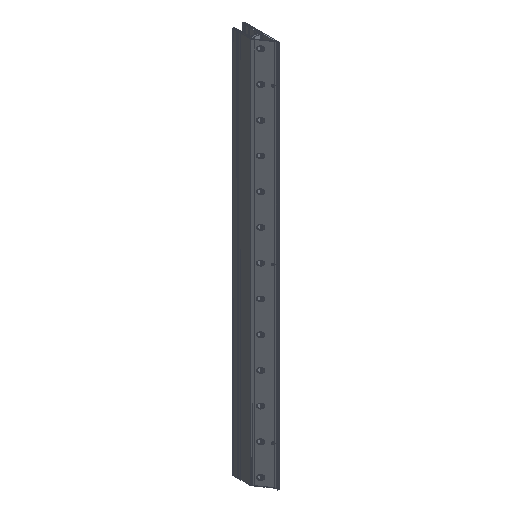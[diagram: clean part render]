
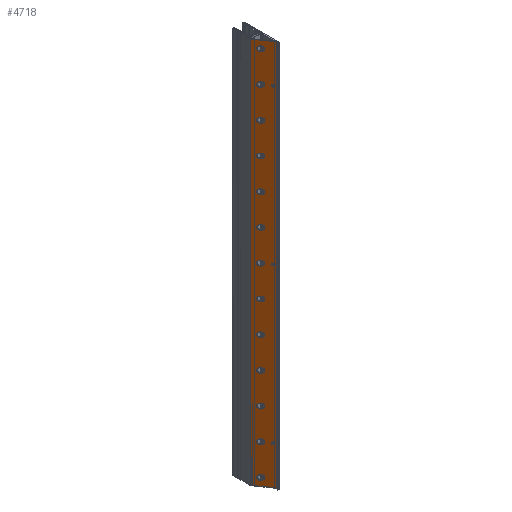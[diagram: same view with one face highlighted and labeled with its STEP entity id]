
A CAD part, isometric view. The second image highlights one B-rep face of the part: STEP entity #4718.
In plain terms, the highlighted planar face has unit normal (-0.824, -0.567, 0).
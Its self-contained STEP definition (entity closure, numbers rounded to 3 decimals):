
#73=FACE_BOUND('',#708,.T.);
#74=FACE_BOUND('',#709,.T.);
#75=FACE_BOUND('',#710,.T.);
#76=FACE_BOUND('',#711,.T.);
#77=FACE_BOUND('',#712,.T.);
#78=FACE_BOUND('',#713,.T.);
#79=FACE_BOUND('',#714,.T.);
#80=FACE_BOUND('',#715,.T.);
#81=FACE_BOUND('',#716,.T.);
#82=FACE_BOUND('',#717,.T.);
#83=FACE_BOUND('',#718,.T.);
#84=FACE_BOUND('',#719,.T.);
#85=FACE_BOUND('',#720,.T.);
#86=FACE_BOUND('',#721,.T.);
#87=FACE_BOUND('',#722,.T.);
#88=FACE_BOUND('',#723,.T.);
#161=PLANE('',#5224);
#195=ELLIPSE('',#4807,7.286,6.);
#198=ELLIPSE('',#4819,7.286,6.);
#201=ELLIPSE('',#4829,7.286,6.);
#203=ELLIPSE('',#4854,18.216,15.);
#205=ELLIPSE('',#4859,18.216,15.);
#207=ELLIPSE('',#4864,18.216,15.);
#209=ELLIPSE('',#4869,18.216,15.);
#211=ELLIPSE('',#4874,18.216,15.);
#213=ELLIPSE('',#4879,18.216,15.);
#215=ELLIPSE('',#4884,18.216,15.);
#217=ELLIPSE('',#4889,18.216,15.);
#219=ELLIPSE('',#4894,18.216,15.);
#221=ELLIPSE('',#4899,18.216,15.);
#223=ELLIPSE('',#4904,18.216,15.);
#225=ELLIPSE('',#4909,18.216,15.);
#227=ELLIPSE('',#4914,18.216,15.);
#417=FACE_OUTER_BOUND('',#707,.T.);
#707=EDGE_LOOP('',(#3974,#3975,#3976,#3977));
#708=EDGE_LOOP('',(#3978));
#709=EDGE_LOOP('',(#3979));
#710=EDGE_LOOP('',(#3980));
#711=EDGE_LOOP('',(#3981));
#712=EDGE_LOOP('',(#3982));
#713=EDGE_LOOP('',(#3983));
#714=EDGE_LOOP('',(#3984));
#715=EDGE_LOOP('',(#3985));
#716=EDGE_LOOP('',(#3986));
#717=EDGE_LOOP('',(#3987));
#718=EDGE_LOOP('',(#3988));
#719=EDGE_LOOP('',(#3989));
#720=EDGE_LOOP('',(#3990));
#721=EDGE_LOOP('',(#3991));
#722=EDGE_LOOP('',(#3992));
#723=EDGE_LOOP('',(#3993));
#898=LINE('',#7240,#1308);
#1064=LINE('',#7795,#1474);
#1133=LINE('',#7995,#1543);
#1134=LINE('',#7997,#1544);
#1308=VECTOR('',#5753,10.);
#1474=VECTOR('',#6269,10.);
#1543=VECTOR('',#6500,10.);
#1544=VECTOR('',#6503,10.);
#1861=VERTEX_POINT('',#6774);
#1872=VERTEX_POINT('',#6824);
#1881=VERTEX_POINT('',#6874);
#1903=VERTEX_POINT('',#6929);
#1906=VERTEX_POINT('',#6939);
#1909=VERTEX_POINT('',#6949);
#1912=VERTEX_POINT('',#6959);
#1915=VERTEX_POINT('',#6969);
#1918=VERTEX_POINT('',#6979);
#1921=VERTEX_POINT('',#6989);
#1924=VERTEX_POINT('',#6999);
#1927=VERTEX_POINT('',#7009);
#1930=VERTEX_POINT('',#7019);
#1933=VERTEX_POINT('',#7029);
#1936=VERTEX_POINT('',#7039);
#1939=VERTEX_POINT('',#7049);
#2012=VERTEX_POINT('',#7237);
#2013=VERTEX_POINT('',#7239);
#2227=VERTEX_POINT('',#7793);
#2276=VERTEX_POINT('',#7991);
#2327=EDGE_CURVE('',#1861,#1861,#195,.T.);
#2342=EDGE_CURVE('',#1872,#1872,#198,.T.);
#2358=EDGE_CURVE('',#1881,#1881,#201,.T.);
#2385=EDGE_CURVE('',#1903,#1903,#203,.T.);
#2390=EDGE_CURVE('',#1906,#1906,#205,.T.);
#2395=EDGE_CURVE('',#1909,#1909,#207,.T.);
#2400=EDGE_CURVE('',#1912,#1912,#209,.T.);
#2405=EDGE_CURVE('',#1915,#1915,#211,.T.);
#2410=EDGE_CURVE('',#1918,#1918,#213,.T.);
#2415=EDGE_CURVE('',#1921,#1921,#215,.T.);
#2420=EDGE_CURVE('',#1924,#1924,#217,.T.);
#2425=EDGE_CURVE('',#1927,#1927,#219,.T.);
#2430=EDGE_CURVE('',#1930,#1930,#221,.T.);
#2435=EDGE_CURVE('',#1933,#1933,#223,.T.);
#2440=EDGE_CURVE('',#1936,#1936,#225,.T.);
#2445=EDGE_CURVE('',#1939,#1939,#227,.T.);
#2536=EDGE_CURVE('',#2013,#2012,#898,.T.);
#2818=EDGE_CURVE('',#2012,#2227,#1064,.T.);
#2918=EDGE_CURVE('',#2013,#2276,#1133,.T.);
#2919=EDGE_CURVE('',#2227,#2276,#1134,.T.);
#3974=ORIENTED_EDGE('',*,*,#2918,.F.);
#3975=ORIENTED_EDGE('',*,*,#2536,.T.);
#3976=ORIENTED_EDGE('',*,*,#2818,.T.);
#3977=ORIENTED_EDGE('',*,*,#2919,.T.);
#3978=ORIENTED_EDGE('',*,*,#2327,.T.);
#3979=ORIENTED_EDGE('',*,*,#2342,.T.);
#3980=ORIENTED_EDGE('',*,*,#2358,.T.);
#3981=ORIENTED_EDGE('',*,*,#2385,.T.);
#3982=ORIENTED_EDGE('',*,*,#2390,.T.);
#3983=ORIENTED_EDGE('',*,*,#2395,.T.);
#3984=ORIENTED_EDGE('',*,*,#2400,.T.);
#3985=ORIENTED_EDGE('',*,*,#2405,.T.);
#3986=ORIENTED_EDGE('',*,*,#2410,.T.);
#3987=ORIENTED_EDGE('',*,*,#2415,.T.);
#3988=ORIENTED_EDGE('',*,*,#2420,.T.);
#3989=ORIENTED_EDGE('',*,*,#2425,.T.);
#3990=ORIENTED_EDGE('',*,*,#2430,.T.);
#3991=ORIENTED_EDGE('',*,*,#2435,.T.);
#3992=ORIENTED_EDGE('',*,*,#2440,.T.);
#3993=ORIENTED_EDGE('',*,*,#2445,.T.);
#4718=ADVANCED_FACE('',(#417,#73,#74,#75,#76,#77,#78,#79,#80,#81,#82,#83,
#84,#85,#86,#87,#88),#161,.T.);
#4807=AXIS2_PLACEMENT_3D('',#6776,#5328,#5329);
#4819=AXIS2_PLACEMENT_3D('',#6826,#5355,#5356);
#4829=AXIS2_PLACEMENT_3D('',#6876,#5382,#5383);
#4854=AXIS2_PLACEMENT_3D('',#6930,#5439,#5440);
#4859=AXIS2_PLACEMENT_3D('',#6940,#5451,#5452);
#4864=AXIS2_PLACEMENT_3D('',#6950,#5463,#5464);
#4869=AXIS2_PLACEMENT_3D('',#6960,#5475,#5476);
#4874=AXIS2_PLACEMENT_3D('',#6970,#5487,#5488);
#4879=AXIS2_PLACEMENT_3D('',#6980,#5499,#5500);
#4884=AXIS2_PLACEMENT_3D('',#6990,#5511,#5512);
#4889=AXIS2_PLACEMENT_3D('',#7000,#5523,#5524);
#4894=AXIS2_PLACEMENT_3D('',#7010,#5535,#5536);
#4899=AXIS2_PLACEMENT_3D('',#7020,#5547,#5548);
#4904=AXIS2_PLACEMENT_3D('',#7030,#5559,#5560);
#4909=AXIS2_PLACEMENT_3D('',#7040,#5571,#5572);
#4914=AXIS2_PLACEMENT_3D('',#7050,#5583,#5584);
#5224=AXIS2_PLACEMENT_3D('',#7996,#6501,#6502);
#5328=DIRECTION('center_axis',(0.823,0.567,0.));
#5329=DIRECTION('ref_axis',(0.567,-0.823,0.));
#5355=DIRECTION('center_axis',(0.823,0.567,0.));
#5356=DIRECTION('ref_axis',(0.567,-0.823,0.));
#5382=DIRECTION('center_axis',(0.823,0.567,0.));
#5383=DIRECTION('ref_axis',(0.567,-0.823,0.));
#5439=DIRECTION('center_axis',(0.823,0.567,0.));
#5440=DIRECTION('ref_axis',(0.567,-0.823,0.));
#5451=DIRECTION('center_axis',(0.823,0.567,0.));
#5452=DIRECTION('ref_axis',(0.567,-0.823,0.));
#5463=DIRECTION('center_axis',(0.823,0.567,0.));
#5464=DIRECTION('ref_axis',(0.567,-0.823,0.));
#5475=DIRECTION('center_axis',(0.823,0.567,0.));
#5476=DIRECTION('ref_axis',(0.567,-0.823,0.));
#5487=DIRECTION('center_axis',(0.823,0.567,0.));
#5488=DIRECTION('ref_axis',(0.567,-0.823,0.));
#5499=DIRECTION('center_axis',(0.823,0.567,0.));
#5500=DIRECTION('ref_axis',(0.567,-0.823,0.));
#5511=DIRECTION('center_axis',(0.823,0.567,0.));
#5512=DIRECTION('ref_axis',(0.567,-0.823,0.));
#5523=DIRECTION('center_axis',(0.823,0.567,0.));
#5524=DIRECTION('ref_axis',(0.567,-0.823,0.));
#5535=DIRECTION('center_axis',(0.823,0.567,0.));
#5536=DIRECTION('ref_axis',(0.567,-0.823,0.));
#5547=DIRECTION('center_axis',(0.823,0.567,0.));
#5548=DIRECTION('ref_axis',(0.567,-0.823,0.));
#5559=DIRECTION('center_axis',(0.823,0.567,0.));
#5560=DIRECTION('ref_axis',(0.567,-0.823,0.));
#5571=DIRECTION('center_axis',(0.823,0.567,0.));
#5572=DIRECTION('ref_axis',(0.567,-0.823,0.));
#5583=DIRECTION('center_axis',(0.823,0.567,0.));
#5584=DIRECTION('ref_axis',(0.567,-0.823,0.));
#5753=DIRECTION('',(0.567,-0.823,0.));
#6269=DIRECTION('',(0.,0.,1.));
#6500=DIRECTION('',(0.,0.,1.));
#6501=DIRECTION('center_axis',(-0.823,-0.567,0.));
#6502=DIRECTION('ref_axis',(0.,0.,1.));
#6503=DIRECTION('',(-0.567,0.823,0.));
#6774=CARTESIAN_POINT('',(-16.41,28.214,2256.));
#6776=CARTESIAN_POINT('Origin',(-16.41,28.214,2250.));
#6824=CARTESIAN_POINT('',(-16.41,28.214,1256.));
#6826=CARTESIAN_POINT('Origin',(-16.41,28.214,1250.));
#6874=CARTESIAN_POINT('',(-16.41,28.214,256.));
#6876=CARTESIAN_POINT('Origin',(-16.41,28.214,250.));
#6929=CARTESIAN_POINT('',(-48.644,75.,2435.));
#6930=CARTESIAN_POINT('Origin',(-48.644,75.,2450.));
#6939=CARTESIAN_POINT('',(-48.644,75.,2235.));
#6940=CARTESIAN_POINT('Origin',(-48.644,75.,2250.));
#6949=CARTESIAN_POINT('',(-48.644,75.,2035.));
#6950=CARTESIAN_POINT('Origin',(-48.644,75.,2050.));
#6959=CARTESIAN_POINT('',(-48.644,75.,1835.));
#6960=CARTESIAN_POINT('Origin',(-48.644,75.,1850.));
#6969=CARTESIAN_POINT('',(-48.644,75.,1635.));
#6970=CARTESIAN_POINT('Origin',(-48.644,75.,1650.));
#6979=CARTESIAN_POINT('',(-48.644,75.,1435.));
#6980=CARTESIAN_POINT('Origin',(-48.644,75.,1450.));
#6989=CARTESIAN_POINT('',(-48.644,75.,1235.));
#6990=CARTESIAN_POINT('Origin',(-48.644,75.,1250.));
#6999=CARTESIAN_POINT('',(-48.644,75.,1035.));
#7000=CARTESIAN_POINT('Origin',(-48.644,75.,1050.));
#7009=CARTESIAN_POINT('',(-48.644,75.,835.));
#7010=CARTESIAN_POINT('Origin',(-48.644,75.,850.));
#7019=CARTESIAN_POINT('',(-48.644,75.,635.));
#7020=CARTESIAN_POINT('Origin',(-48.644,75.,650.));
#7029=CARTESIAN_POINT('',(-48.644,75.,435.));
#7030=CARTESIAN_POINT('Origin',(-48.644,75.,450.));
#7039=CARTESIAN_POINT('',(-48.644,75.,235.));
#7040=CARTESIAN_POINT('Origin',(-48.644,75.,250.));
#7049=CARTESIAN_POINT('',(-48.644,75.,35.));
#7050=CARTESIAN_POINT('Origin',(-48.644,75.,50.));
#7237=CARTESIAN_POINT('',(-6.5,13.831,0.));
#7239=CARTESIAN_POINT('',(-74.737,112.872,0.));
#7240=CARTESIAN_POINT('',(-74.826,113.,0.));
#7793=CARTESIAN_POINT('',(-6.5,13.831,2500.));
#7795=CARTESIAN_POINT('',(-6.5,13.831,0.));
#7991=CARTESIAN_POINT('',(-74.737,112.872,2500.));
#7995=CARTESIAN_POINT('',(-74.737,112.872,0.));
#7996=CARTESIAN_POINT('Origin',(-6.5,13.831,0.));
#7997=CARTESIAN_POINT('',(-74.826,113.,2500.));
